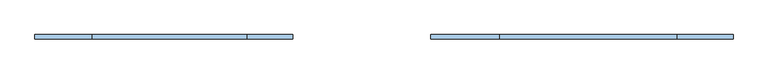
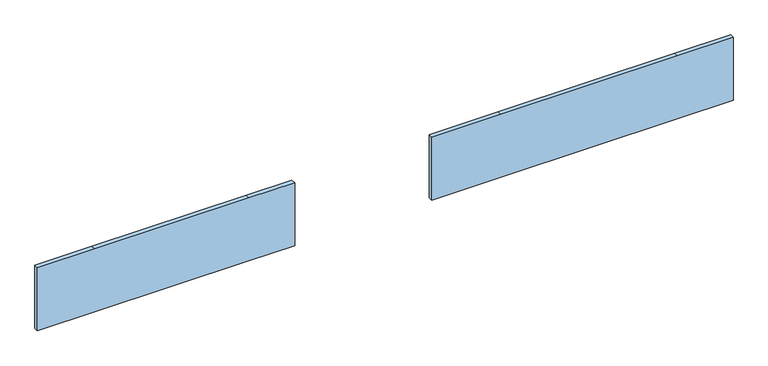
"""IFC4 building model written with IfcOpenShell, lengths in millimetres: window geometry, 外水晶柱 : 外水晶柱."""

from ifc_helpers import new_model, si_unit, frame, origin, place, context, project, spatial, polyline, outline, extrude, source, transform, mapped, element, save


def window_81e3a7f6(model_context):
    return source(origin(), model_context, "Body", "SweptSolid", [
        extrude(outline(polyline([(2400.0, 11771.3411577), (2400.0, 7790.7183192), (2400.0, 6234.3213943), (900.0, 6234.3213943), (900.0, 7790.7183192), (900.0, 11771.3411577), (900.0, 13031.9541736), (2400.0, 13031.9541736), (2400.0, 11771.3411577)])), frame((0.0, -5884.8205358, 0.0), z_axis=(0.0, 1.0, 0.0), x_axis=(0.0, 0.0, 1.0)), (0.0, 0.0, 1.0), 100.0),
        extrude(outline(polyline([(2400.0, 2109.1032749), (2400.0, -1373.2679161), (2400.0, -2660.9441643), (900.0, -2660.9441643), (900.0, -1373.2679161), (900.0, 2109.1032749), (900.0, 3137.6395537), (2400.0, 3137.6395537), (2400.0, 2109.1032749)])), frame((0.0, -5884.8205358, 0.0), z_axis=(0.0, 1.0, 0.0), x_axis=(0.0, 0.0, 1.0)), (0.0, 0.0, 1.0), 100.0),
    ])


if __name__ == "__main__":
    model = new_model("IFC4")
    model_context = context("Model", 3, world=origin())
    ifc_project = project(units=[si_unit("LENGTHUNIT", "METRE", prefix="MILLI")], contexts=[model_context])
    site = spatial("IfcSite", under=ifc_project)
    building = spatial("IfcBuilding", under=site)
    placement = place(None, origin())
    window_shape = window_81e3a7f6(model_context)
    element("IfcWindow", 1, ObjectType="外水晶柱 : 外水晶柱", at=placement, inside=building, context=model_context, shape_type="MappedRepresentation", body=[
        mapped(window_shape, transform((0.0, 0.0, 0.0), x_axis=(1.0, 0.0, 0.0), y_axis=(0.0, 1.0, 0.0), z_axis=(0.0, 0.0, 1.0))),
    ])
    save(model, "model.ifc")
